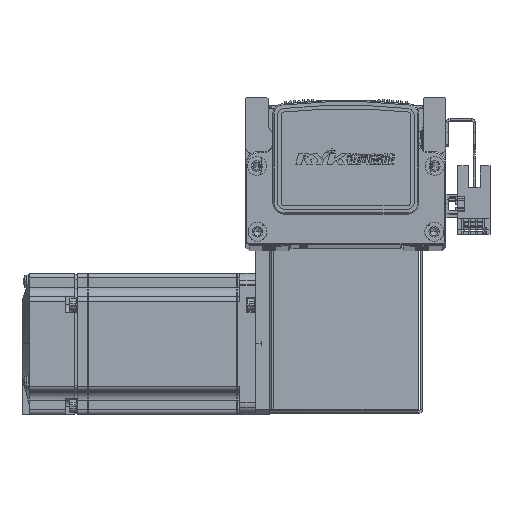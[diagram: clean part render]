
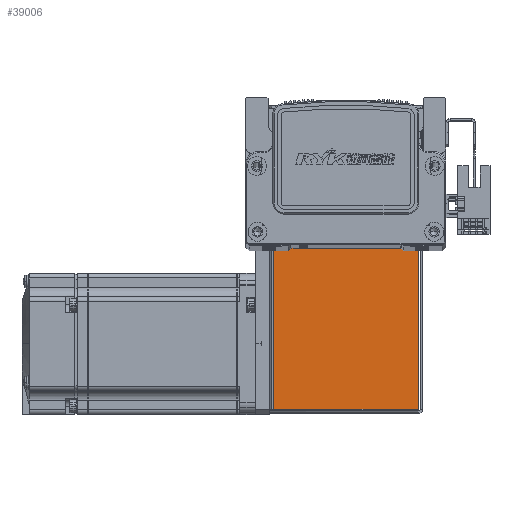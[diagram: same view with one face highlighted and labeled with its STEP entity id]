
A CAD part, top view. The second image highlights one B-rep face of the part: STEP entity #39006.
In plain terms, the highlighted planar face has unit normal (0, 0, 1) as drawn and (0, 0, -1) by its records, which use the part's own axes.
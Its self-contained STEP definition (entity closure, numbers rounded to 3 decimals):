
#4609 = VERTEX_POINT ( 'NONE', #70596 ) ;
#4645 = VERTEX_POINT ( 'NONE', #70780 ) ;
#4677 = VERTEX_POINT ( 'NONE', #70680 ) ;
#4681 = VERTEX_POINT ( 'NONE', #70701 ) ;
#19029 = ORIENTED_EDGE ( 'NONE', *, *, #78943, .T. ) ;
#19059 = ORIENTED_EDGE ( 'NONE', *, *, #79025, .T. ) ;
#19131 = ORIENTED_EDGE ( 'NONE', *, *, #78871, .T. ) ;
#19135 = ORIENTED_EDGE ( 'NONE', *, *, #78988, .F. ) ;
#22336 = EDGE_LOOP ( 'NONE', ( #19059, #19135, #19131, #19029 ) ) ;
#26547 = VECTOR ( 'NONE', #41661, 1000. ) ;
#26633 = LINE ( 'NONE', #41680, #26547 ) ;
#26681 = LINE ( 'NONE', #77840, #26771 ) ;
#26719 = VECTOR ( 'NONE', #77972, 1000. ) ;
#26731 = LINE ( 'NONE', #77924, #26719 ) ;
#26771 = VECTOR ( 'NONE', #77842, 1000. ) ;
#26863 = LINE ( 'NONE', #77982, #26885 ) ;
#26885 = VECTOR ( 'NONE', #77998, 1000. ) ;
#39006 = ADVANCED_FACE ( 'NONE', ( #59468 ), #64795, .F. ) ;
#41661 = DIRECTION ( 'NONE',  ( 0., 1., 0. ) ) ;
#41680 = CARTESIAN_POINT ( 'NONE',  ( -30.793, 0., -35. ) ) ;
#59468 = FACE_OUTER_BOUND ( 'NONE', #22336, .T. ) ;
#64732 = DIRECTION ( 'NONE',  ( 0., -1., 0. ) ) ;
#64758 = CARTESIAN_POINT ( 'NONE',  ( 0., 0., -35. ) ) ;
#64783 = DIRECTION ( 'NONE',  ( 0., 0., 1. ) ) ;
#64795 = PLANE ( 'NONE',  #66016 ) ;
#66016 = AXIS2_PLACEMENT_3D ( 'NONE', #64758, #64783, #64732 ) ;
#70596 = CARTESIAN_POINT ( 'NONE',  ( -30.793, 0.737, -35. ) ) ;
#70680 = CARTESIAN_POINT ( 'NONE',  ( 30.763, 0.737, -35. ) ) ;
#70701 = CARTESIAN_POINT ( 'NONE',  ( -30.793, 72.5, -35. ) ) ;
#70780 = CARTESIAN_POINT ( 'NONE',  ( 30.763, 72.5, -35. ) ) ;
#77840 = CARTESIAN_POINT ( 'NONE',  ( 0., 72.5, -35. ) ) ;
#77842 = DIRECTION ( 'NONE',  ( 1., 0., 0. ) ) ;
#77924 = CARTESIAN_POINT ( 'NONE',  ( 32.5, 0.737, -35. ) ) ;
#77972 = DIRECTION ( 'NONE',  ( 1., 0., 0. ) ) ;
#77982 = CARTESIAN_POINT ( 'NONE',  ( 30.763, 72.5, -35. ) ) ;
#77998 = DIRECTION ( 'NONE',  ( 0., -1., 0. ) ) ;
#78871 = EDGE_CURVE ( 'NONE', #4609, #4681, #26633, .T. ) ;
#78943 = EDGE_CURVE ( 'NONE', #4681, #4645, #26681, .T. ) ;
#78988 = EDGE_CURVE ( 'NONE', #4609, #4677, #26731, .T. ) ;
#79025 = EDGE_CURVE ( 'NONE', #4645, #4677, #26863, .T. ) ;
